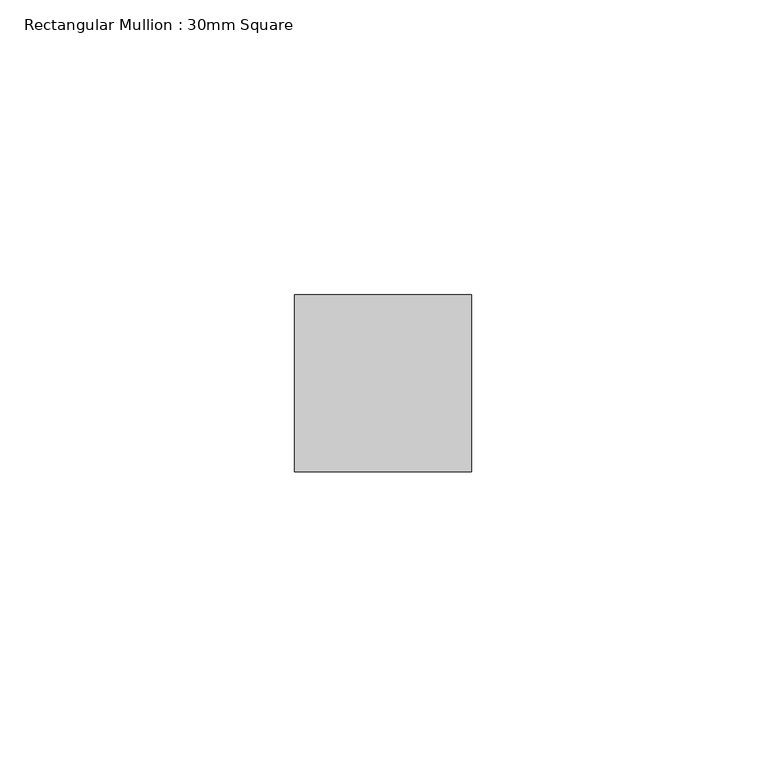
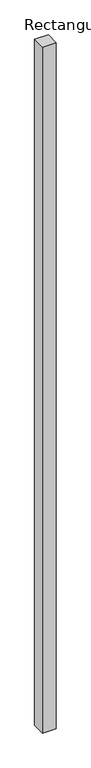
"""IFC4 building model written with IfcOpenShell, lengths in millimetres: member geometry, Rectangular Mullion : 30mm Square."""

from ifc_helpers import new_model, si_unit, frame, origin, place, context, project, spatial, polyline, outline, extrude, source, transform, mapped, element, save


def rectangular_mullion_30mm_square_cb0955aa(model_context):
    return source(origin(), model_context, "Body", "SweptSolid", [
        extrude(outline(polyline([(0.0, 15.0), (0.0, -15.0), (-30.0, -15.0), (-30.0, 15.0), (0.0, 15.0)])), frame((0.0, 0.0, -1595.0), z_axis=(0.0, 0.0, 1.0), x_axis=(1.0, 0.0, 0.0)), (0.0, 0.0, 1.0), 1595.0),
    ])


if __name__ == "__main__":
    model = new_model("IFC4")
    model_context = context("Model", 3, world=origin())
    ifc_project = project(units=[si_unit("LENGTHUNIT", "METRE", prefix="MILLI")], contexts=[model_context])
    site = spatial("IfcSite", under=ifc_project)
    building = spatial("IfcBuilding", under=site)
    placement = place(None, origin())
    rectangular_mullion_30mm_square_shape = rectangular_mullion_30mm_square_cb0955aa(model_context)
    element("IfcMember", 1, ObjectType="Rectangular Mullion : 30mm Square", at=placement, inside=building, context=model_context, shape_type="MappedRepresentation", body=[
        mapped(rectangular_mullion_30mm_square_shape, transform((0.0, 0.0, 0.0), x_axis=(1.0, 0.0, 0.0), y_axis=(0.0, 1.0, 0.0), z_axis=(0.0, 0.0, 1.0))),
    ])
    save(model, "model.ifc")
